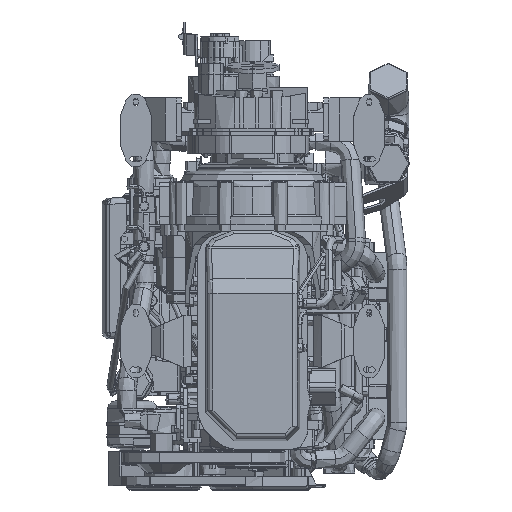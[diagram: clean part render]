
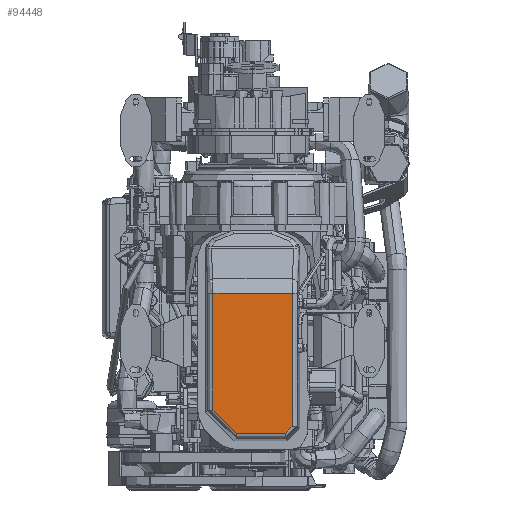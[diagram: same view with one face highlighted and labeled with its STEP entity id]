
A CAD part, front view. The second image highlights one B-rep face of the part: STEP entity #94448.
In plain terms, the highlighted planar face has unit normal (0, -1, 0).
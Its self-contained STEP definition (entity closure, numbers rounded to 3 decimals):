
#89600=CARTESIAN_POINT('',(97.264,-240.,79.766));
#89614=DIRECTION('',(1.,0.,0.));
#89615=VECTOR('',#89614,194.528);
#89616=CARTESIAN_POINT('',(-97.264,-240.,79.766));
#89617=LINE('',#89616,#89615);
#89730=DIRECTION('',(0.,0.,1.));
#89731=VECTOR('',#89730,287.254);
#89732=CARTESIAN_POINT('',(-97.264,-240.,
-207.489));
#89733=LINE('',#89732,#89731);
#89775=DIRECTION('',(-1.,0.,
0.));
#89776=VECTOR('',#89775,120.578);
#89777=CARTESIAN_POINT('',(80.275,-240.,
-264.455));
#89778=LINE('',#89777,#89776);
#89779=CARTESIAN_POINT('',(80.275,-240.,
-264.455));
#89780=CARTESIAN_POINT('',(80.71,-240.,
-264.455));
#89781=CARTESIAN_POINT('',(81.753,-240.,
-264.415));
#89782=CARTESIAN_POINT('',(83.392,-240.,
-264.2));
#89783=CARTESIAN_POINT('',(85.266,-240.,
-263.746));
#89784=CARTESIAN_POINT('',(87.16,-240.,
-263.046));
#89785=CARTESIAN_POINT('',(89.024,-240.,
-262.081));
#89786=CARTESIAN_POINT('',(90.755,-240.,
-260.895));
#89787=CARTESIAN_POINT('',(93.272,-240.,
-258.667));
#89788=CARTESIAN_POINT('',(95.117,-240.,
-256.039));
#89789=CARTESIAN_POINT('',(96.263,-240.,
-253.28));
#89790=CARTESIAN_POINT('',(96.724,-240.,
-251.808));
#89791=CARTESIAN_POINT('',(97.049,-240.,
-250.302));
#89792=CARTESIAN_POINT('',(97.227,-240.,
-248.849));
#89793=CARTESIAN_POINT('',(97.264,-240.,-247.902));
#89794=CARTESIAN_POINT('',(97.264,-240.,
-247.467));
#89796=CARTESIAN_POINT('',(-97.264,-240.,
-207.489));
#89797=CARTESIAN_POINT('',(-97.264,-240.,
-208.029));
#89798=CARTESIAN_POINT('',(-97.243,-240.,
-209.551));
#89799=CARTESIAN_POINT('',(-97.107,-240.,
-212.046));
#89800=CARTESIAN_POINT('',(-96.694,-240.,
-215.937));
#89801=CARTESIAN_POINT('',(-95.805,-240.,
-220.746));
#89802=CARTESIAN_POINT('',(-94.151,-240.,
-226.38));
#89803=CARTESIAN_POINT('',(-90.178,-240.,
-236.084));
#89804=CARTESIAN_POINT('',(-83.846,-240.,
-245.089));
#89805=CARTESIAN_POINT('',(-75.4,-240.,
-252.549));
#89806=CARTESIAN_POINT('',(-69.591,-240.,
-256.522));
#89807=CARTESIAN_POINT('',(-63.339,-240.,
-259.752));
#89808=CARTESIAN_POINT('',(-56.56,-240.,
-262.251));
#89809=CARTESIAN_POINT('',(-50.593,-240.,
-263.616));
#89810=CARTESIAN_POINT('',(-45.651,-240.,
-264.245));
#89811=CARTESIAN_POINT('',(-42.628,-240.,
-264.43));
#89812=CARTESIAN_POINT('',(-40.842,-240.,
-264.455));
#89813=CARTESIAN_POINT('',(-40.303,-240.,
-264.455));
#89949=DIRECTION('',(0.,0.,-1.));
#89950=VECTOR('',#89949,327.232);
#89951=CARTESIAN_POINT('',(97.264,-240.,79.766));
#89952=LINE('',#89951,#89950);
#92785=VERTEX_POINT('',#89600);
#92786=CARTESIAN_POINT('',(-97.264,-240.,79.766));
#92787=VERTEX_POINT('',#92786);
#92788=CARTESIAN_POINT('',(80.275,-240.,
-264.455));
#92789=CARTESIAN_POINT('',(-40.303,-240.,
-264.455));
#92790=VERTEX_POINT('',#92788);
#92791=VERTEX_POINT('',#92789);
#92792=VERTEX_POINT('',#89796);
#92793=CARTESIAN_POINT('',(97.264,-240.,
-247.467));
#92794=VERTEX_POINT('',#92793);
#94433=CARTESIAN_POINT('',(-114.821,-240.,9.77));
#94434=DIRECTION('',(0.,-1.,0.));
#94435=DIRECTION('',(-1.,0.,0.));
#94436=AXIS2_PLACEMENT_3D('',#94433,#94434,#94435);
#94437=PLANE('',#94436);
#94439=ORIENTED_EDGE('',*,*,#94438,.F.);
#94440=ORIENTED_EDGE('',*,*,#94426,.T.);
#94441=ORIENTED_EDGE('',*,*,#94383,.F.);
#94442=ORIENTED_EDGE('',*,*,#94158,.T.);
#94443=ORIENTED_EDGE('',*,*,#93691,.T.);
#94445=ORIENTED_EDGE('',*,*,#94444,.T.);
#94446=EDGE_LOOP('',(#94439,#94440,#94441,#94442,#94443,#94445));
#94447=FACE_OUTER_BOUND('',#94446,.F.);
#94448=ADVANCED_FACE('',(#94447),#94437,.T.);
#89795=B_SPLINE_CURVE_WITH_KNOTS('',3,(#89779,#89780,#89781,#89782,#89783,
#89784,#89785,#89786,#89787,#89788,#89789,#89790,#89791,#89792,#89793,#89794),
.UNSPECIFIED.,.F.,.F.,(4,1,1,1,1,1,1,1,1,1,1,1,1,4),(0.,0.049,
0.118,0.186,0.265,0.344,
0.422,0.501,0.72,0.777,
0.835,0.893,0.951,1.),.UNSPECIFIED.);
#89814=B_SPLINE_CURVE_WITH_KNOTS('',3,(#89796,#89797,#89798,#89799,#89800,
#89801,#89802,#89803,#89804,#89805,#89806,#89807,#89808,#89809,#89810,#89811,
#89812,#89813),.UNSPECIFIED.,.F.,.F.,(4,1,1,1,1,1,1,1,1,1,1,1,1,1,1,4),(0.,
0.018,0.051,0.084,0.15,
0.215,0.281,0.5,0.578,
0.657,0.736,0.815,0.898,
0.94,0.982,1.),.UNSPECIFIED.);
#93691=EDGE_CURVE('',#92787,#92785,#89617,.T.);
#94158=EDGE_CURVE('',#92792,#92787,#89733,.T.);
#94383=EDGE_CURVE('',#92792,#92791,#89814,.T.);
#94426=EDGE_CURVE('',#92790,#92791,#89778,.T.);
#94438=EDGE_CURVE('',#92790,#92794,#89795,.T.);
#94444=EDGE_CURVE('',#92785,#92794,#89952,.T.);
